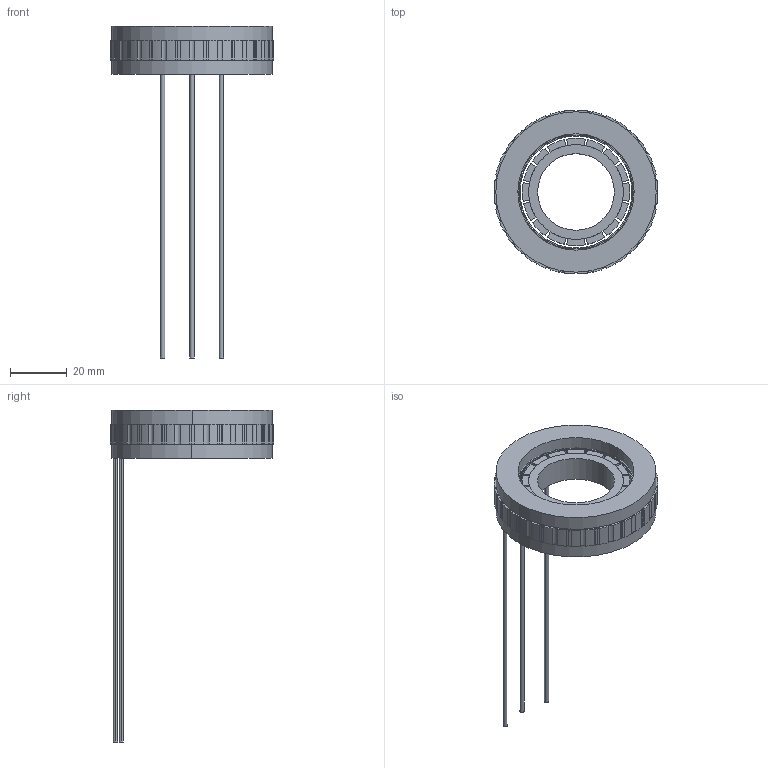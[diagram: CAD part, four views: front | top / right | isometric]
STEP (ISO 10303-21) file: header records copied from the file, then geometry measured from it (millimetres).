
FILE_DESCRIPTION (( 'STEP AP203' ), '1' );
FILE_NAME ('307080332SS FMC05707-0010-3027N-8DS00-V1.1.STEP', '2022-12-07T02:50:49', ( 'muse' ), ( 'muse' ), 'SwSTEP 2.0', 'SolidWorks 2022', '' );
FILE_SCHEMA (( 'CONFIG_CONTROL_DESIGN' ));
Length unit declared in the file: millimetre
Products named in the file (6): 磁钢(外发版）; 57.8定子铁芯(外发版）; 转子; 307080332SS FMC05707-0010-3027N-8DS00-V1.1; 线包高度; 57.8包胶
Assembly tree (54 placements, depth 2):
  307080332SS FMC05707-0010-3027N-8DS00-V1.1
    57.8包胶  x18
    57.8定子铁芯(外发版）  x18
    转子
    磁钢(外发版）  x16
    线包高度
Bounding box: 57.78 x 57.77 x 117 mm (x, y, z)
Volume: 24161.4 mm3; surface area: 30123.4 mm2
Topology: 55 solids, 55 shells, 1347 faces, 3666 edges, 2396 vertices
Faces by surface type: plane 829, cylinder 518
Entity records: 5272 total; most frequent: DIRECTION 664, CARTESIAN_POINT 582, ORIENTED_EDGE 512, EDGE_CURVE 256, AXIS2_PLACEMENT_3D 250, VERTEX_POINT 168, LINE 164, VECTOR 164
